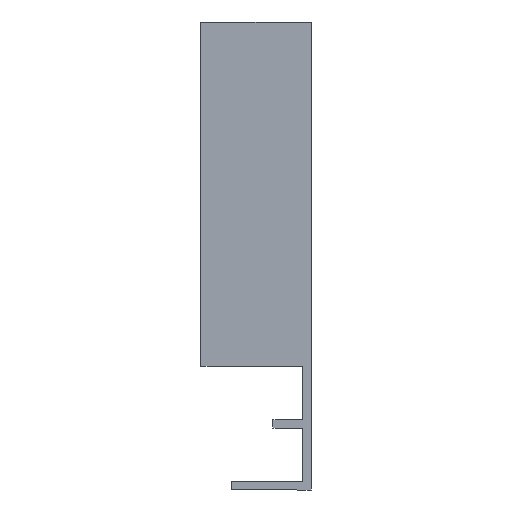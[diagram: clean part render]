
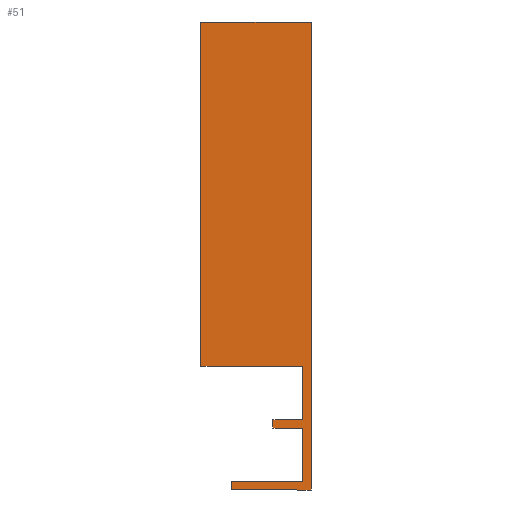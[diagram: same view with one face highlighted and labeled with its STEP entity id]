
A CAD part, left-side view. The second image highlights one B-rep face of the part: STEP entity #51.
In plain terms, the highlighted planar face has unit normal (-1, 0, 0).
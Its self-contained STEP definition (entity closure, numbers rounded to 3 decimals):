
#5 = VERTEX_POINT ( 'NONE', #36 ) ;
#7 = VERTEX_POINT ( 'NONE', #25 ) ;
#12 = VERTEX_POINT ( 'NONE', #38 ) ;
#17 = VERTEX_POINT ( 'NONE', #355 ) ;
#18 = VERTEX_POINT ( 'NONE', #356 ) ;
#20 = VERTEX_POINT ( 'NONE', #354 ) ;
#22 = VERTEX_POINT ( 'NONE', #362 ) ;
#24 = VERTEX_POINT ( 'NONE', #360 ) ;
#25 = CARTESIAN_POINT ( 'NONE',  ( -438.5, -4.3, 0. ) ) ;
#26 = VERTEX_POINT ( 'NONE', #359 ) ;
#28 = VERTEX_POINT ( 'NONE', #357 ) ;
#30 = VERTEX_POINT ( 'NONE', #369 ) ;
#32 = VERTEX_POINT ( 'NONE', #367 ) ;
#36 = CARTESIAN_POINT ( 'NONE',  ( -438.5, -4.3, -8.95 ) ) ;
#38 = CARTESIAN_POINT ( 'NONE',  ( -438.5, -5.5, -17.9 ) ) ;
#51 = ADVANCED_FACE ( 'NONE', ( #141 ), #411, .T. ) ;
#61 = EDGE_CURVE ( 'NONE', #17, #24, #267, .T. ) ;
#69 = EDGE_CURVE ( 'NONE', #20, #26, #263, .T. ) ;
#73 = EDGE_CURVE ( 'NONE', #7, #30, #135, .T. ) ;
#75 = EDGE_CURVE ( 'NONE', #28, #7, #261, .T. ) ;
#76 = EDGE_CURVE ( 'NONE', #26, #28, #286, .T. ) ;
#79 = EDGE_CURVE ( 'NONE', #32, #5, #279, .T. ) ;
#85 = EDGE_CURVE ( 'NONE', #12, #20, #293, .T. ) ;
#91 = EDGE_CURVE ( 'NONE', #30, #22, #303, .T. ) ;
#93 = EDGE_CURVE ( 'NONE', #22, #32, #320, .T. ) ;
#95 = EDGE_CURVE ( 'NONE', #5, #18, #324, .T. ) ;
#106 = AXIS2_PLACEMENT_3D ( 'NONE', #410, #413, #414 ) ;
#123 = EDGE_CURVE ( 'NONE', #18, #17, #317, .T. ) ;
#126 = EDGE_CURVE ( 'NONE', #24, #12, #338, .T. ) ;
#134 = VECTOR ( 'NONE', #457, 1000. ) ;
#135 = LINE ( 'NONE', #462, #280 ) ;
#141 = FACE_OUTER_BOUND ( 'NONE', #200, .T. ) ;
#157 = ORIENTED_EDGE ( 'NONE', *, *, #126, .T. ) ;
#158 = ORIENTED_EDGE ( 'NONE', *, *, #85, .T. ) ;
#159 = ORIENTED_EDGE ( 'NONE', *, *, #69, .T. ) ;
#160 = ORIENTED_EDGE ( 'NONE', *, *, #76, .T. ) ;
#161 = ORIENTED_EDGE ( 'NONE', *, *, #75, .T. ) ;
#162 = ORIENTED_EDGE ( 'NONE', *, *, #73, .T. ) ;
#163 = ORIENTED_EDGE ( 'NONE', *, *, #91, .T. ) ;
#164 = ORIENTED_EDGE ( 'NONE', *, *, #93, .T. ) ;
#165 = ORIENTED_EDGE ( 'NONE', *, *, #79, .T. ) ;
#166 = ORIENTED_EDGE ( 'NONE', *, *, #95, .T. ) ;
#200 = EDGE_LOOP ( 'NONE', ( #210, #211, #157, #158, #159, #160, #161, #162, #163, #164, #165, #166 ) ) ;
#210 = ORIENTED_EDGE ( 'NONE', *, *, #123, .T. ) ;
#211 = ORIENTED_EDGE ( 'NONE', *, *, #61, .T. ) ;
#261 = LINE ( 'NONE', #464, #284 ) ;
#263 = LINE ( 'NONE', #454, #134 ) ;
#266 = VECTOR ( 'NONE', #446, 1000. ) ;
#267 = LINE ( 'NONE', #445, #266 ) ;
#279 = LINE ( 'NONE', #468, #292 ) ;
#280 = VECTOR ( 'NONE', #465, 1000. ) ;
#284 = VECTOR ( 'NONE', #469, 1000. ) ;
#286 = LINE ( 'NONE', #470, #287 ) ;
#287 = VECTOR ( 'NONE', #471, 1000. ) ;
#292 = VECTOR ( 'NONE', #477, 1000. ) ;
#293 = LINE ( 'NONE', #486, #304 ) ;
#303 = LINE ( 'NONE', #496, #316 ) ;
#304 = VECTOR ( 'NONE', #489, 1000. ) ;
#316 = VECTOR ( 'NONE', #502, 1000. ) ;
#317 = LINE ( 'NONE', #522, #328 ) ;
#320 = LINE ( 'NONE', #505, #321 ) ;
#321 = VECTOR ( 'NONE', #506, 1000. ) ;
#324 = LINE ( 'NONE', #509, #325 ) ;
#325 = VECTOR ( 'NONE', #510, 1000. ) ;
#328 = VECTOR ( 'NONE', #523, 1000. ) ;
#338 = LINE ( 'NONE', #528, #339 ) ;
#339 = VECTOR ( 'NONE', #529, 1000. ) ;
#354 = CARTESIAN_POINT ( 'NONE',  ( -438.5, -5.5, 49.7 ) ) ;
#355 = CARTESIAN_POINT ( 'NONE',  ( -438.5, 6., -16.7 ) ) ;
#356 = CARTESIAN_POINT ( 'NONE',  ( -438.5, -4.3, -16.7 ) ) ;
#357 = CARTESIAN_POINT ( 'NONE',  ( -438.5, 10.4, 0. ) ) ;
#359 = CARTESIAN_POINT ( 'NONE',  ( -438.5, 10.4, 49.7 ) ) ;
#360 = CARTESIAN_POINT ( 'NONE',  ( -438.5, 6., -17.9 ) ) ;
#362 = CARTESIAN_POINT ( 'NONE',  ( -438.5, 0., -7.75 ) ) ;
#367 = CARTESIAN_POINT ( 'NONE',  ( -438.5, 0., -8.95 ) ) ;
#369 = CARTESIAN_POINT ( 'NONE',  ( -438.5, -4.3, -7.75 ) ) ;
#410 = CARTESIAN_POINT ( 'NONE',  ( -438.5, 6., -16.7 ) ) ;
#411 = PLANE ( 'NONE',  #106 ) ;
#413 = DIRECTION ( 'NONE',  ( -1., 0., 0. ) ) ;
#414 = DIRECTION ( 'NONE',  ( 0., -1., 0. ) ) ;
#445 = CARTESIAN_POINT ( 'NONE',  ( -438.5, 6., -16.7 ) ) ;
#446 = DIRECTION ( 'NONE',  ( 0., 0., -1. ) ) ;
#454 = CARTESIAN_POINT ( 'NONE',  ( -438.5, -5.5, 49.7 ) ) ;
#457 = DIRECTION ( 'NONE',  ( 0., 1., 0. ) ) ;
#462 = CARTESIAN_POINT ( 'NONE',  ( -438.5, -4.3, 0. ) ) ;
#464 = CARTESIAN_POINT ( 'NONE',  ( -438.5, 10.4, 0. ) ) ;
#465 = DIRECTION ( 'NONE',  ( 0., 0., -1. ) ) ;
#468 = CARTESIAN_POINT ( 'NONE',  ( -438.5, 0., -8.95 ) ) ;
#469 = DIRECTION ( 'NONE',  ( 0., -1., 0. ) ) ;
#470 = CARTESIAN_POINT ( 'NONE',  ( -438.5, 10.4, 49.7 ) ) ;
#471 = DIRECTION ( 'NONE',  ( 0., 0., -1. ) ) ;
#477 = DIRECTION ( 'NONE',  ( 0., -1., 0. ) ) ;
#486 = CARTESIAN_POINT ( 'NONE',  ( -438.5, -5.5, -17.9 ) ) ;
#489 = DIRECTION ( 'NONE',  ( 0., 0., 1. ) ) ;
#496 = CARTESIAN_POINT ( 'NONE',  ( -438.5, -4.3, -7.75 ) ) ;
#502 = DIRECTION ( 'NONE',  ( 0., 1., 0. ) ) ;
#505 = CARTESIAN_POINT ( 'NONE',  ( -438.5, 0., -7.75 ) ) ;
#506 = DIRECTION ( 'NONE',  ( 0., 0., -1. ) ) ;
#509 = CARTESIAN_POINT ( 'NONE',  ( -438.5, -4.3, -8.95 ) ) ;
#510 = DIRECTION ( 'NONE',  ( 0., 0., -1. ) ) ;
#522 = CARTESIAN_POINT ( 'NONE',  ( -438.5, -4.3, -16.7 ) ) ;
#523 = DIRECTION ( 'NONE',  ( 0., 1., 0. ) ) ;
#528 = CARTESIAN_POINT ( 'NONE',  ( -438.5, 6., -17.9 ) ) ;
#529 = DIRECTION ( 'NONE',  ( 0., -1., 0. ) ) ;
